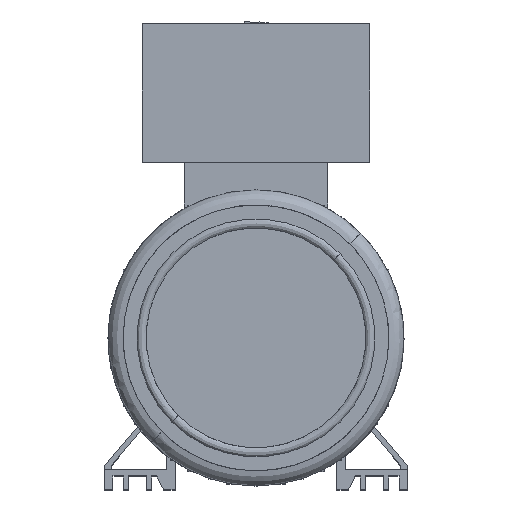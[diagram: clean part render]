
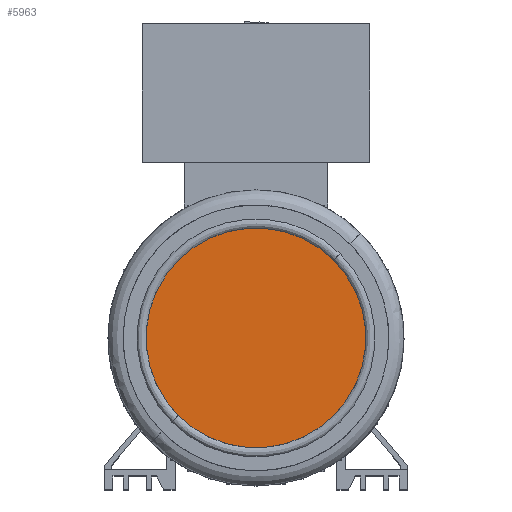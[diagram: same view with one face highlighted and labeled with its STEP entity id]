
A CAD part, top view. The second image highlights one B-rep face of the part: STEP entity #5963.
In plain terms, the highlighted planar face has unit normal (0, 0, 1).
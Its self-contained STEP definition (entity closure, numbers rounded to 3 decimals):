
#877 = CARTESIAN_POINT ( 'NONE',  ( 46.166, 46.166, 158.5 ) ) ;
#1068 = ORIENTED_EDGE ( 'NONE', *, *, #3866, .F. ) ;
#2856 = DIRECTION ( 'NONE',  ( 0., 1., 0. ) ) ;
#3589 = EDGE_CURVE ( 'NONE', #16394, #14457, #7987, .T. ) ;
#3866 = EDGE_CURVE ( 'NONE', #14457, #16394, #14922, .T. ) ;
#5430 = CARTESIAN_POINT ( 'NONE',  ( -46.246, 46.246, 158.5 ) ) ;
#5963 = ADVANCED_FACE ( 'NONE', ( #6754 ), #12836, .F. ) ;
#6383 = EDGE_LOOP ( 'NONE', ( #1068, #6487 ) ) ;
#6487 = ORIENTED_EDGE ( 'NONE', *, *, #3589, .F. ) ;
#6694 = DIRECTION ( 'NONE',  ( 0., 0., -1. ) ) ;
#6754 = FACE_OUTER_BOUND ( 'NONE', #6383, .T. ) ;
#6836 = AXIS2_PLACEMENT_3D ( 'NONE', #15732, #6694, #2856 ) ;
#6970 = DIRECTION ( 'NONE',  ( 0., 1., 0. ) ) ;
#7987 = CIRCLE ( 'NONE', #6836, 65.289 ) ;
#8506 = AXIS2_PLACEMENT_3D ( 'NONE', #16589, #20455, #22239 ) ;
#12836 = PLANE ( 'NONE',  #19060 ) ;
#14457 = VERTEX_POINT ( 'NONE', #23224 ) ;
#14922 = CIRCLE ( 'NONE', #8506, 65.289 ) ;
#15732 = CARTESIAN_POINT ( 'NONE',  ( 0., 0., 158.5 ) ) ;
#16394 = VERTEX_POINT ( 'NONE', #877 ) ;
#16403 = DIRECTION ( 'NONE',  ( 0., 0., -1. ) ) ;
#16589 = CARTESIAN_POINT ( 'NONE',  ( 0., 0., 158.5 ) ) ;
#19060 = AXIS2_PLACEMENT_3D ( 'NONE', #5430, #16403, #6970 ) ;
#20455 = DIRECTION ( 'NONE',  ( 0., 0., -1. ) ) ;
#22239 = DIRECTION ( 'NONE',  ( 0., 1., 0. ) ) ;
#23224 = CARTESIAN_POINT ( 'NONE',  ( -46.166, -46.166, 158.5 ) ) ;
